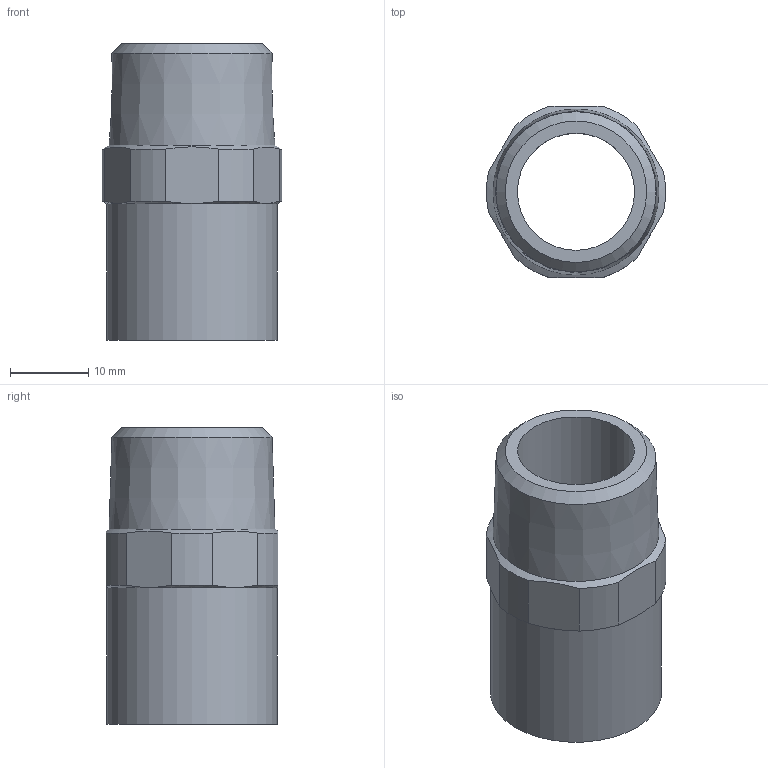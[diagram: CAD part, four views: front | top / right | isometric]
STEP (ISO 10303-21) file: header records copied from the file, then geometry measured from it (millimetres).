
FILE_DESCRIPTION(/* description */ (''),/* implementation_level */ '2;1');
FILE_NAME(/* name */ '14280g_22-12(1).stp',/* time_stamp */ '2024-01-26T15:09:24+01:00',/* author */ ('gomulka'),/* organization */ (''),/* preprocessor_version */ 'ST-DEVELOPER v20',/* originating_system */ 'Autodesk Inventor 2024',/* authorisation */ '');
FILE_SCHEMA (('AUTOMOTIVE_DESIGN { 1 0 10303 214 3 1 1 }'));
Length unit declared in the file: millimetre
Products named in the file (1): R14280g_22-12(1)
Bounding box: 22.93 x 22 x 38 mm (x, y, z)
Volume: 5686.1 mm3; surface area: 4891 mm2
Topology: 1 solids, 1 shells, 22 faces, 55 edges, 35 vertices
Faces by surface type: cylinder 9, plane 8, cone 5
Full cylindrical faces by diameter (mm): 15 x1, 18 x1, 21.9 x1
Entity records: 693 total; most frequent: CARTESIAN_POINT 141, ORIENTED_EDGE 110, DIRECTION 108, EDGE_CURVE 55, AXIS2_PLACEMENT_3D 44, VERTEX_POINT 35, EDGE_LOOP 24, FACE_OUTER_BOUND 22
